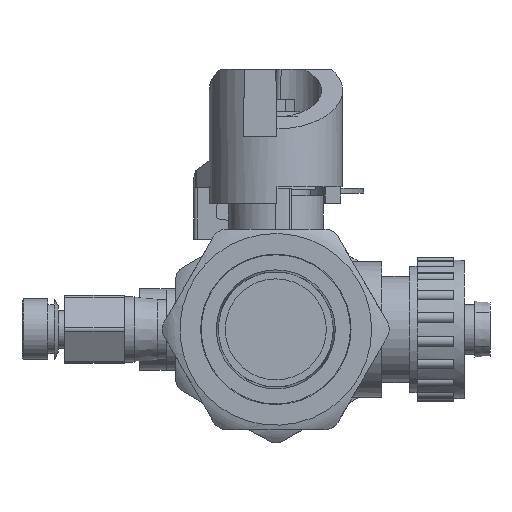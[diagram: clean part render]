
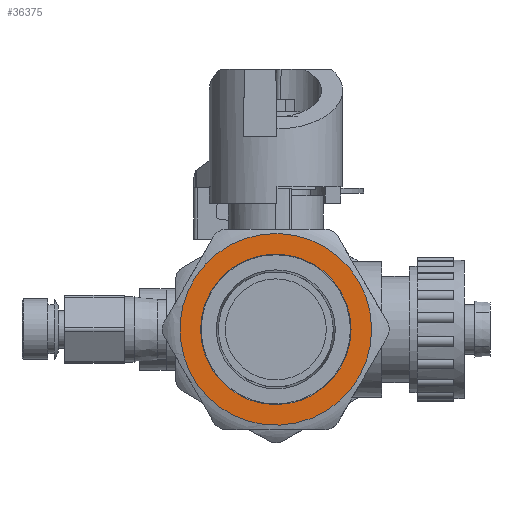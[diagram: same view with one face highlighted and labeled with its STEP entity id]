
A CAD part, left-side view. The second image highlights one B-rep face of the part: STEP entity #36375.
In plain terms, the highlighted planar face has unit normal (-1, 0, 0).
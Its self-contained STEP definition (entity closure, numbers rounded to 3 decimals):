
#36375 = ADVANCED_FACE('',(#36376,#36444),#36391,.F.);
#36376 = FACE_BOUND('',#36377,.T.);
#36377 = EDGE_LOOP('',(#36378,#36418));
#36378 = ORIENTED_EDGE('',*,*,#36379,.T.);
#36379 = EDGE_CURVE('',#36380,#36382,#36384,.T.);
#36380 = VERTEX_POINT('',#36381);
#36381 = CARTESIAN_POINT('',(28.227,-0.796,
    15.469));
#36382 = VERTEX_POINT('',#36383);
#36383 = CARTESIAN_POINT('',(28.227,0.795,
    15.522));
#36384 = SURFACE_CURVE('',#36385,(#36390,#36406),.PCURVE_S1.);
#36385 = CIRCLE('',#36386,0.796);
#36386 = AXIS2_PLACEMENT_3D('',#36387,#36388,#36389);
#36387 = CARTESIAN_POINT('',(28.227,0.,
    15.469));
#36388 = DIRECTION('',(-1.,0.,0.));
#36389 = DIRECTION('',(0.,1.,0.));
#36390 = PCURVE('',#36391,#36396);
#36391 = PLANE('',#36392);
#36392 = AXIS2_PLACEMENT_3D('',#36393,#36394,#36395);
#36393 = CARTESIAN_POINT('',(28.227,0.,
    15.469));
#36394 = DIRECTION('',(1.,0.,0.));
#36395 = DIRECTION('',(0.,1.,0.));
#36396 = DEFINITIONAL_REPRESENTATION('',(#36397),#36405);
#36397 = ( BOUNDED_CURVE() B_SPLINE_CURVE(2,(#36398,#36399,#36400,#36401
    ,#36402,#36403,#36404),.UNSPECIFIED.,.T.,.F.) 
B_SPLINE_CURVE_WITH_KNOTS((1,2,2,2,2,1),(-2.094,0.,
    2.094,4.189,6.283,8.378),
.UNSPECIFIED.) CURVE() GEOMETRIC_REPRESENTATION_ITEM() 
RATIONAL_B_SPLINE_CURVE((1.,0.5,1.,0.5,1.,0.5,1.)) REPRESENTATION_ITEM(
  '') );
#36398 = CARTESIAN_POINT('',(0.796,0.));
#36399 = CARTESIAN_POINT('',(0.796,-1.38));
#36400 = CARTESIAN_POINT('',(-0.398,-0.69));
#36401 = CARTESIAN_POINT('',(-1.593,0.));
#36402 = CARTESIAN_POINT('',(-0.398,0.69));
#36403 = CARTESIAN_POINT('',(0.796,1.38));
#36404 = CARTESIAN_POINT('',(0.796,0.));
#36405 = ( GEOMETRIC_REPRESENTATION_CONTEXT(2) 
PARAMETRIC_REPRESENTATION_CONTEXT() REPRESENTATION_CONTEXT('2D SPACE',''
  ) );
#36406 = PCURVE('',#36407,#36412);
#36407 = TOROIDAL_SURFACE('',#36408,0.744,0.292);
#36408 = AXIS2_PLACEMENT_3D('',#36409,#36410,#36411);
#36409 = CARTESIAN_POINT('',(28.514,0.,
    15.469));
#36410 = DIRECTION('',(-1.,0.,0.));
#36411 = DIRECTION('',(0.,1.,0.));
#36412 = DEFINITIONAL_REPRESENTATION('',(#36413),#36417);
#36413 = LINE('',#36414,#36415);
#36414 = CARTESIAN_POINT('',(-6.283,7.674));
#36415 = VECTOR('',#36416,1.);
#36416 = DIRECTION('',(1.,-0.));
#36417 = ( GEOMETRIC_REPRESENTATION_CONTEXT(2) 
PARAMETRIC_REPRESENTATION_CONTEXT() REPRESENTATION_CONTEXT('2D SPACE',''
  ) );
#36418 = ORIENTED_EDGE('',*,*,#36419,.T.);
#36419 = EDGE_CURVE('',#36382,#36380,#36420,.T.);
#36420 = SURFACE_CURVE('',#36421,(#36426,#36437),.PCURVE_S1.);
#36421 = CIRCLE('',#36422,0.796);
#36422 = AXIS2_PLACEMENT_3D('',#36423,#36424,#36425);
#36423 = CARTESIAN_POINT('',(28.227,0.,
    15.469));
#36424 = DIRECTION('',(-1.,0.,0.));
#36425 = DIRECTION('',(0.,1.,0.));
#36426 = PCURVE('',#36391,#36427);
#36427 = DEFINITIONAL_REPRESENTATION('',(#36428),#36436);
#36428 = ( BOUNDED_CURVE() B_SPLINE_CURVE(2,(#36429,#36430,#36431,#36432
    ,#36433,#36434,#36435),.UNSPECIFIED.,.T.,.F.) 
B_SPLINE_CURVE_WITH_KNOTS((1,2,2,2,2,1),(-2.094,0.,
    2.094,4.189,6.283,8.378),
.UNSPECIFIED.) CURVE() GEOMETRIC_REPRESENTATION_ITEM() 
RATIONAL_B_SPLINE_CURVE((1.,0.5,1.,0.5,1.,0.5,1.)) REPRESENTATION_ITEM(
  '') );
#36429 = CARTESIAN_POINT('',(0.796,0.));
#36430 = CARTESIAN_POINT('',(0.796,-1.38));
#36431 = CARTESIAN_POINT('',(-0.398,-0.69));
#36432 = CARTESIAN_POINT('',(-1.593,0.));
#36433 = CARTESIAN_POINT('',(-0.398,0.69));
#36434 = CARTESIAN_POINT('',(0.796,1.38));
#36435 = CARTESIAN_POINT('',(0.796,0.));
#36436 = ( GEOMETRIC_REPRESENTATION_CONTEXT(2) 
PARAMETRIC_REPRESENTATION_CONTEXT() REPRESENTATION_CONTEXT('2D SPACE',''
  ) );
#36437 = PCURVE('',#36407,#36438);
#36438 = DEFINITIONAL_REPRESENTATION('',(#36439),#36443);
#36439 = LINE('',#36440,#36441);
#36440 = CARTESIAN_POINT('',(-12.566,7.674));
#36441 = VECTOR('',#36442,1.);
#36442 = DIRECTION('',(1.,-0.));
#36443 = ( GEOMETRIC_REPRESENTATION_CONTEXT(2) 
PARAMETRIC_REPRESENTATION_CONTEXT() REPRESENTATION_CONTEXT('2D SPACE',''
  ) );
#36444 = FACE_BOUND('',#36445,.T.);
#36445 = EDGE_LOOP('',(#36446));
#36446 = ORIENTED_EDGE('',*,*,#36447,.T.);
#36447 = EDGE_CURVE('',#36448,#36448,#36450,.T.);
#36448 = VERTEX_POINT('',#36449);
#36449 = CARTESIAN_POINT('',(28.227,0.,
    16.094));
#36450 = SURFACE_CURVE('',#36451,(#36456,#36463),.PCURVE_S1.);
#36451 = CIRCLE('',#36452,0.625);
#36452 = AXIS2_PLACEMENT_3D('',#36453,#36454,#36455);
#36453 = CARTESIAN_POINT('',(28.227,0.,
    15.469));
#36454 = DIRECTION('',(1.,0.,0.));
#36455 = DIRECTION('',(0.,0.,-1.));
#36456 = PCURVE('',#36391,#36457);
#36457 = DEFINITIONAL_REPRESENTATION('',(#36458),#36462);
#36458 = CIRCLE('',#36459,0.625);
#36459 = AXIS2_PLACEMENT_2D('',#36460,#36461);
#36460 = CARTESIAN_POINT('',(0.,0.));
#36461 = DIRECTION('',(0.,-1.));
#36462 = ( GEOMETRIC_REPRESENTATION_CONTEXT(2) 
PARAMETRIC_REPRESENTATION_CONTEXT() REPRESENTATION_CONTEXT('2D SPACE',''
  ) );
#36463 = PCURVE('',#36464,#36469);
#36464 = CYLINDRICAL_SURFACE('',#36465,0.625);
#36465 = AXIS2_PLACEMENT_3D('',#36466,#36467,#36468);
#36466 = CARTESIAN_POINT('',(28.823,0.,
    15.469));
#36467 = DIRECTION('',(-1.,0.,0.));
#36468 = DIRECTION('',(0.,0.,-1.));
#36469 = DEFINITIONAL_REPRESENTATION('',(#36470),#36474);
#36470 = LINE('',#36471,#36472);
#36471 = CARTESIAN_POINT('',(12.566,0.596));
#36472 = VECTOR('',#36473,1.);
#36473 = DIRECTION('',(-1.,0.));
#36474 = ( GEOMETRIC_REPRESENTATION_CONTEXT(2) 
PARAMETRIC_REPRESENTATION_CONTEXT() REPRESENTATION_CONTEXT('2D SPACE',''
  ) );
